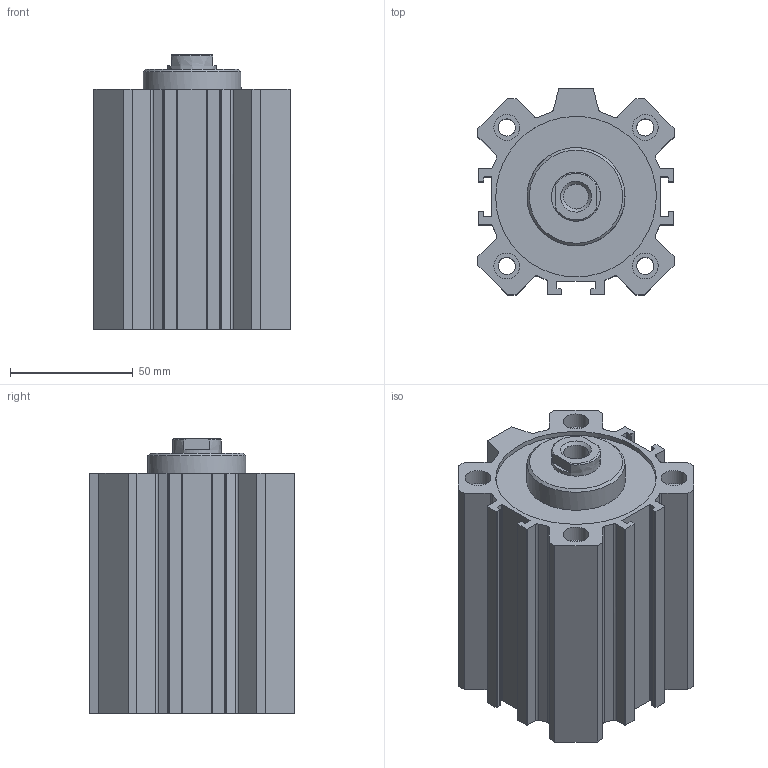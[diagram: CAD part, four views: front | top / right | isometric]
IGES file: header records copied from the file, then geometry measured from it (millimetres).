
Global section: file name: 1511_63_0055; native system: Autodesk Inventor 2014; preprocessor: unknown; author: A. Manieri; date: 20160824.140141; units: millimetre
Bounding box: 80 x 84 x 112 mm (x, y, z)
Volume: 354449.2 mm3; surface area: 98376.9 mm2
Topology: 2 solids, 2 shells, 165 faces, 443 edges, 300 vertices
Faces by surface type: bspline 165
